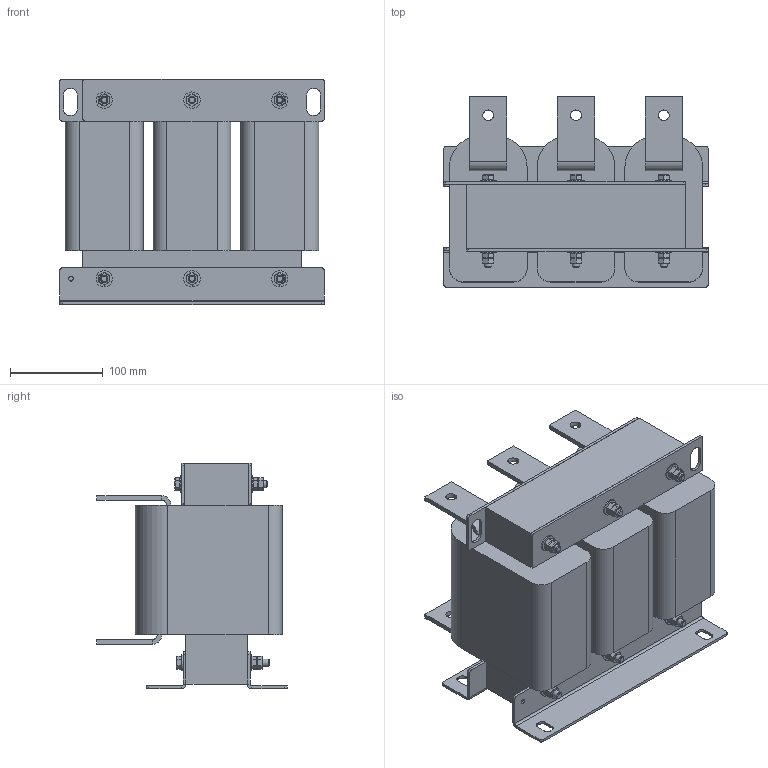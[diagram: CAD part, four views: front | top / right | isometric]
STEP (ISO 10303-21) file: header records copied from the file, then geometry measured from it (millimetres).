
FILE_DESCRIPTION(('STEP AP203'), '1');
FILE_NAME('IMF-200_380-4', '', ('UNSPECIFIED'), ('UNSPECIFIED'), 'ASCON STEP Converter 1.6', 'ASCON Math Kernel', '');
FILE_SCHEMA(('CONFIG_CONTROL_DESIGN'));
Length unit declared in the file: millimetre
Products named in the file (10): IMF-200_380-4
Assembly tree (42 placements, depth 2):
  IMF-200_380-4
    (unnamed)
    (unnamed)  x2
    (unnamed)  x12
    (unnamed)  x6
    (unnamed)  x12
    (unnamed)  x3
    (unnamed)
    (unnamed)  x3
    (unnamed)  x2
Bounding box: 285 x 205 x 243 mm (x, y, z)
Volume: 7258696.1 mm3; surface area: 645927.1 mm2
Topology: 42 solids, 42 shells, 712 faces, 1544 edges, 922 vertices
Faces by surface type: plane 558, cylinder 148, cone 6
Full cylindrical faces by diameter (mm): 5 x2, 8 x48, 11.5 x6, 17.6 x12
Entity records: 6127 total; most frequent: DIRECTION 910, CARTESIAN_POINT 832, ORIENTED_EDGE 750, EDGE_CURVE 375, AXIS2_PLACEMENT_3D 321, LINE 268, VECTOR 268, VERTEX_POINT 243
